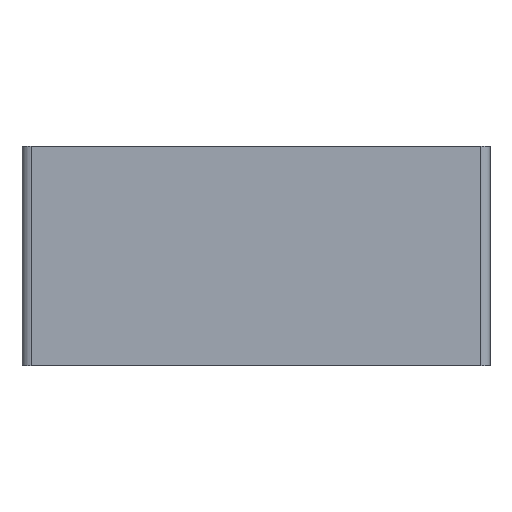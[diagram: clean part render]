
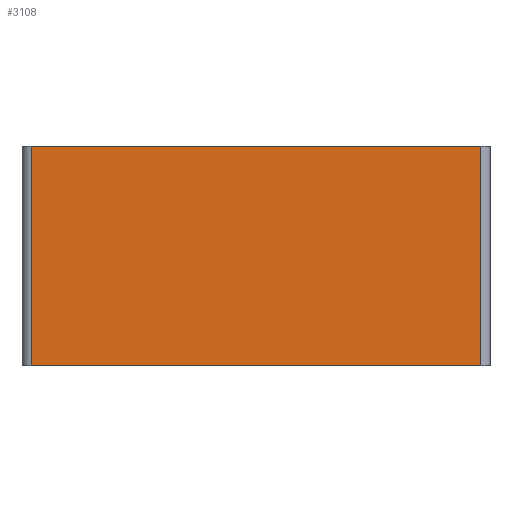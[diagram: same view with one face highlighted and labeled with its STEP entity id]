
A CAD part, left-side view. The second image highlights one B-rep face of the part: STEP entity #3108.
In plain terms, the highlighted planar face has unit normal (-1, 0, 0).
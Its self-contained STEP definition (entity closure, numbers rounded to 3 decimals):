
#350=FACE_OUTER_BOUND('',#546,.T.);
#546=EDGE_LOOP('',(#2474,#2475,#2476,#2477));
#909=LINE('',#5417,#1247);
#910=LINE('',#5420,#1248);
#911=LINE('',#5422,#1249);
#912=LINE('',#5423,#1250);
#1247=VECTOR('',#3906,10.);
#1248=VECTOR('',#3909,10.);
#1249=VECTOR('',#3910,10.);
#1250=VECTOR('',#3911,10.);
#1565=VERTEX_POINT('',#5410);
#1568=VERTEX_POINT('',#5415);
#1569=VERTEX_POINT('',#5419);
#1570=VERTEX_POINT('',#5421);
#1925=EDGE_CURVE('',#1568,#1565,#909,.T.);
#1926=EDGE_CURVE('',#1569,#1568,#910,.T.);
#1927=EDGE_CURVE('',#1570,#1569,#911,.T.);
#1928=EDGE_CURVE('',#1570,#1565,#912,.T.);
#2474=ORIENTED_EDGE('',*,*,#1925,.F.);
#2475=ORIENTED_EDGE('',*,*,#1926,.F.);
#2476=ORIENTED_EDGE('',*,*,#1927,.F.);
#2477=ORIENTED_EDGE('',*,*,#1928,.T.);
#2965=PLANE('',#3316);
#3108=ADVANCED_FACE('',(#350),#2965,.F.);
#3316=AXIS2_PLACEMENT_3D('',#5418,#3907,#3908);
#3906=DIRECTION('',(0.,0.,1.));
#3907=DIRECTION('center_axis',(1.,0.,0.));
#3908=DIRECTION('ref_axis',(0.,1.,0.));
#3909=DIRECTION('',(0.,1.,0.));
#3910=DIRECTION('',(0.,0.,-1.));
#3911=DIRECTION('',(0.,1.,0.));
#5410=CARTESIAN_POINT('',(-231.,-2.,47.));
#5415=CARTESIAN_POINT('',(-231.,-2.,0.));
#5417=CARTESIAN_POINT('',(-231.,-2.,0.));
#5418=CARTESIAN_POINT('Origin',(-231.,-100.,0.));
#5419=CARTESIAN_POINT('',(-231.,-98.,0.));
#5420=CARTESIAN_POINT('',(-231.,-100.,0.));
#5421=CARTESIAN_POINT('',(-231.,-98.,47.));
#5422=CARTESIAN_POINT('',(-231.,-98.,0.));
#5423=CARTESIAN_POINT('',(-231.,-100.,47.));
